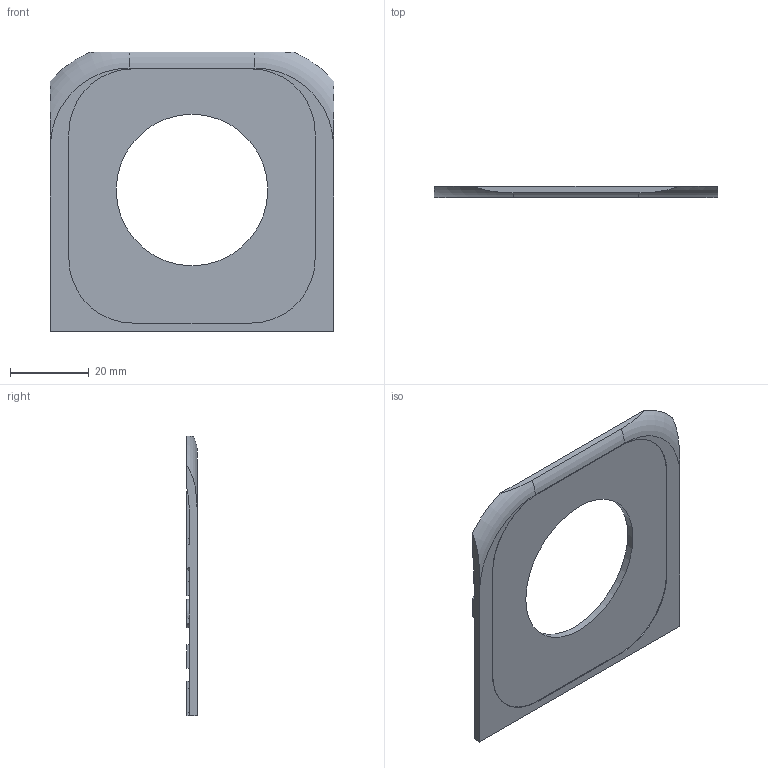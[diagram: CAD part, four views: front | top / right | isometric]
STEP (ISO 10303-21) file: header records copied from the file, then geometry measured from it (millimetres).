
FILE_DESCRIPTION(('Open CASCADE Model'),'2;1');
FILE_NAME('front_chassis_PA12','2026-09-06T11:35:14',('Author'),( 'Open CASCADE'),'Open CASCADE STEP processor 7.8','build123d', 'Unknown');
FILE_SCHEMA(('AUTOMOTIVE_DESIGN { 1 0 10303 214 1 1 1 1 }'));
Length unit declared in the file: millimetre
Products named in the file (1): front_chassis_PA12
Bounding box: 72 x 2.7 x 71 mm (x, y, z)
Volume: 7454 mm3; surface area: 8756.5 mm2
Topology: 1 solids, 1 shells, 88 faces, 222 edges, 148 vertices
Faces by surface type: plane 67, cylinder 15, torus 6
Full cylindrical faces by diameter (mm): 3.2 x2, 38.5 x1
Entity records: 6574 total; most frequent: CARTESIAN_POINT 2308, DIRECTION 713, ORIENTED_EDGE 444, PCURVE 444, DEFINITIONAL_REPRESENTATION 444, LINE 435, VECTOR 435, EDGE_CURVE 222
